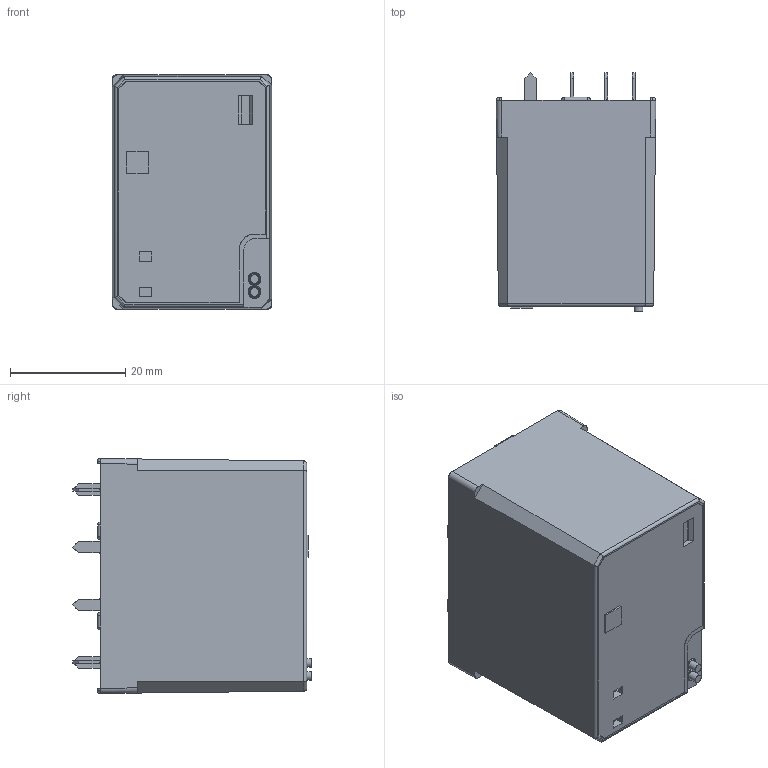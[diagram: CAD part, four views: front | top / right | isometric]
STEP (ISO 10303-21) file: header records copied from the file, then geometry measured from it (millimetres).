
FILE_DESCRIPTION(('STEP AP214'),'2;1');
FILE_NAME('5644xxxx0000_senza pulsante.stp','2011-05-17T13:53:30',(''),(''),'2007.1.106','THINKDESIGN','');
FILE_SCHEMA(('AUTOMOTIVE_DESIGN'));
Length unit declared in the file: millimetre
Products named in the file (1): None
Bounding box: 27.7 x 41.4 x 40.79 mm (x, y, z)
Surface area: 11672.3 mm2 (no closed solid volume)
Topology: 0 solids, 0 shells, 343 faces, 1915 edges, 1886 vertices
Faces by surface type: plane 223, cylinder 64, bspline 56
Full cylindrical faces by diameter (mm): 1.5 x2, 5 x1
Entity records: 20489 total; most frequent: CARTESIAN_POINT 7195, DIRECTION 2191, COMPOSITE_CURVE_SEGMENT 1877, TRIMMED_CURVE 1515, VECTOR 1425, LINE 1425, AXIS2_PLACEMENT_3D 383, STYLED_ITEM 343
